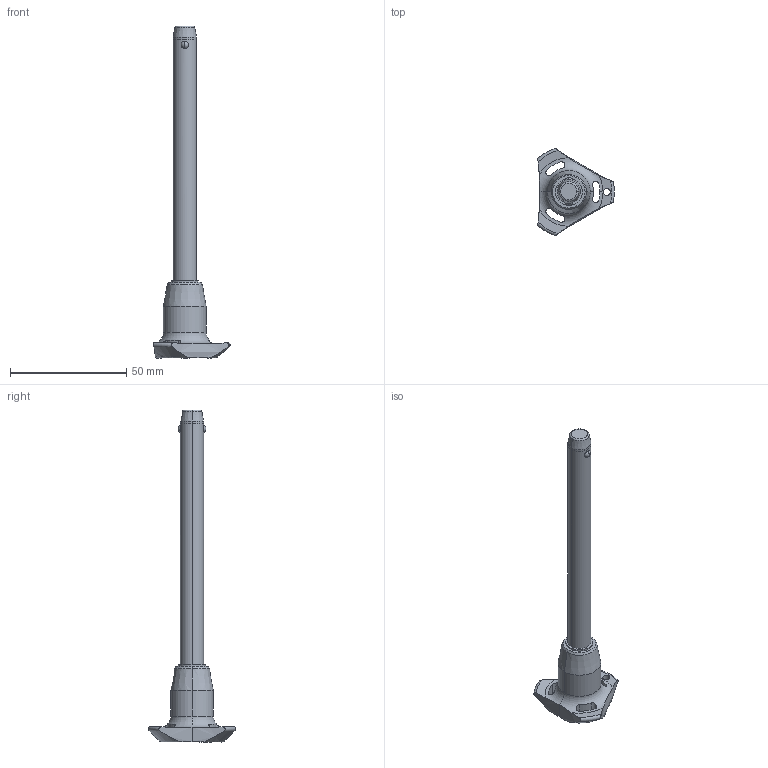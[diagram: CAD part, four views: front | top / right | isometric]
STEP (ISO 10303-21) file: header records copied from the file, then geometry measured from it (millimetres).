
FILE_DESCRIPTION (( 'STEP AP203' ), '1' );
FILE_NAME ('QR1726.M10-100-T.step', '2025-11-13T11:12:30', ( '' ), ( '' ), 'SwSTEP 2.0', 'SolidWorks 2019', '' );
FILE_SCHEMA (( 'CONFIG_CONTROL_DESIGN' ));
Length unit declared in the file: millimetre
Products named in the file (1): QR1726.M10-100-T
Bounding box: 33 x 37.51 x 142.9 mm (x, y, z)
Volume: 18261 mm3; surface area: 7235 mm2
Topology: 1 solids, 1 shells, 68 faces, 180 edges, 113 vertices
Faces by surface type: cylinder 32, cone 14, torus 11, sphere 6, plane 5
Entity records: 2823 total; most frequent: CARTESIAN_POINT 1083, ORIENTED_EDGE 360, DIRECTION 347, EDGE_CURVE 180, AXIS2_PLACEMENT_3D 154, VERTEX_POINT 113, CIRCLE 85, EDGE_LOOP 75
